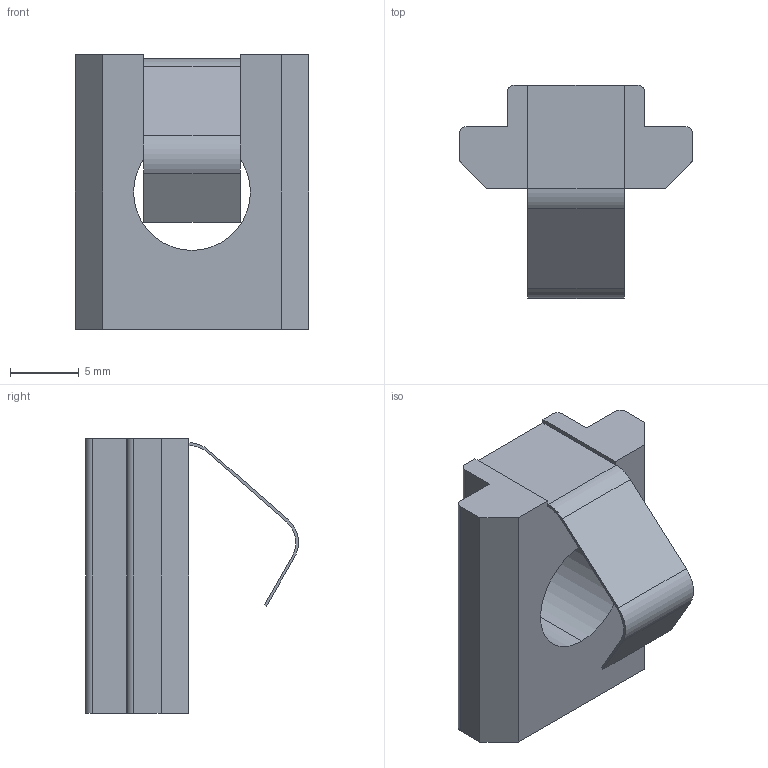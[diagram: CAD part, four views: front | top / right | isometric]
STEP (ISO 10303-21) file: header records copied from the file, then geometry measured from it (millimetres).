
FILE_DESCRIPTION (( 'STEP AP203' ), '1' );
FILE_NAME ('084.302.103.STEP', '2021-03-22T08:57:24', ( 'Localadmin' ), ( 'Microsoft' ), 'SwSTEP 2.0', 'SolidWorks 2018', '' );
FILE_SCHEMA (( 'CONFIG_CONTROL_DESIGN' ));
Length unit declared in the file: millimetre
Products named in the file (1): 084.302.103
Bounding box: 17 x 15.51 x 20 mm (x, y, z)
Volume: 1626.7 mm3; surface area: 1440.4 mm2
Topology: 1 solids, 1 shells, 34 faces, 94 edges, 62 vertices
Faces by surface type: plane 24, cylinder 10
Entity records: 1163 total; most frequent: CARTESIAN_POINT 191, ORIENTED_EDGE 188, DIRECTION 184, EDGE_CURVE 94, VECTOR 74, LINE 74, VERTEX_POINT 62, AXIS2_PLACEMENT_3D 55
